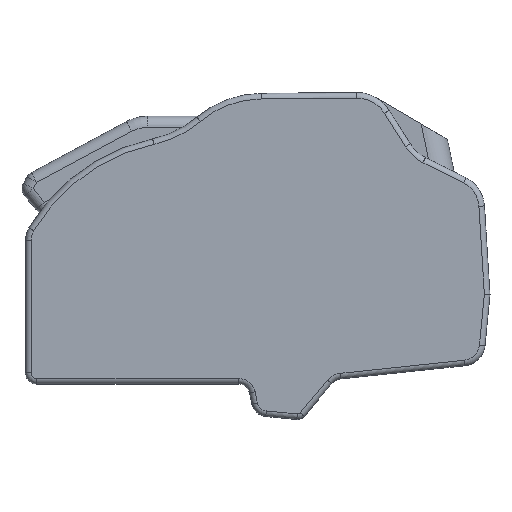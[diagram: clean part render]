
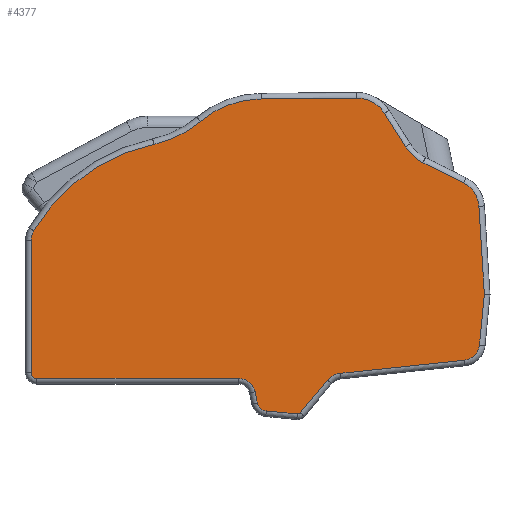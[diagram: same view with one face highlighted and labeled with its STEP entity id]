
A CAD part, front view. The second image highlights one B-rep face of the part: STEP entity #4377.
In plain terms, the highlighted planar face has unit normal (0, -1, 0).
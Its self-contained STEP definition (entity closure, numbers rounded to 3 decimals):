
#215=CIRCLE('',#4718,0.15);
#216=CIRCLE('',#4719,0.85);
#217=CIRCLE('',#4720,0.75);
#218=CIRCLE('',#4721,1.25);
#219=CIRCLE('',#4722,1.95);
#220=CIRCLE('',#4723,1.45);
#221=CIRCLE('',#4724,4.25);
#222=CIRCLE('',#4725,4.75);
#223=CIRCLE('',#4726,8.25);
#224=CIRCLE('',#4727,0.85);
#225=CIRCLE('',#4728,0.25);
#226=CIRCLE('',#4729,0.75);
#227=CIRCLE('',#4730,0.45);
#606=ORIENTED_EDGE('',*,*,#1935,.T.);
#607=ORIENTED_EDGE('',*,*,#1936,.T.);
#608=ORIENTED_EDGE('',*,*,#1937,.T.);
#609=ORIENTED_EDGE('',*,*,#1938,.T.);
#610=ORIENTED_EDGE('',*,*,#1939,.T.);
#611=ORIENTED_EDGE('',*,*,#1940,.T.);
#612=ORIENTED_EDGE('',*,*,#1941,.T.);
#613=ORIENTED_EDGE('',*,*,#1942,.T.);
#614=ORIENTED_EDGE('',*,*,#1943,.T.);
#615=ORIENTED_EDGE('',*,*,#1944,.T.);
#616=ORIENTED_EDGE('',*,*,#1945,.T.);
#617=ORIENTED_EDGE('',*,*,#1946,.T.);
#618=ORIENTED_EDGE('',*,*,#1947,.T.);
#619=ORIENTED_EDGE('',*,*,#1948,.T.);
#620=ORIENTED_EDGE('',*,*,#1949,.T.);
#621=ORIENTED_EDGE('',*,*,#1950,.T.);
#622=ORIENTED_EDGE('',*,*,#1951,.T.);
#623=ORIENTED_EDGE('',*,*,#1952,.T.);
#624=ORIENTED_EDGE('',*,*,#1953,.T.);
#625=ORIENTED_EDGE('',*,*,#1954,.T.);
#626=ORIENTED_EDGE('',*,*,#1955,.T.);
#627=ORIENTED_EDGE('',*,*,#1956,.T.);
#628=ORIENTED_EDGE('',*,*,#1957,.T.);
#629=ORIENTED_EDGE('',*,*,#1958,.T.);
#1935=EDGE_CURVE('',#2591,#2592,#2965,.T.);
#1936=EDGE_CURVE('',#2592,#2593,#215,.T.);
#1937=EDGE_CURVE('',#2593,#2594,#2966,.T.);
#1938=EDGE_CURVE('',#2594,#2595,#216,.F.);
#1939=EDGE_CURVE('',#2595,#2596,#2967,.T.);
#1940=EDGE_CURVE('',#2596,#2597,#217,.T.);
#1941=EDGE_CURVE('',#2597,#2598,#2968,.T.);
#1942=EDGE_CURVE('',#2598,#2599,#2969,.T.);
#1943=EDGE_CURVE('',#2599,#2600,#218,.T.);
#1944=EDGE_CURVE('',#2600,#2601,#2970,.T.);
#1945=EDGE_CURVE('',#2601,#2602,#219,.F.);
#1946=EDGE_CURVE('',#2602,#2603,#2971,.T.);
#1947=EDGE_CURVE('',#2603,#2604,#220,.T.);
#1948=EDGE_CURVE('',#2604,#2605,#2972,.T.);
#1949=EDGE_CURVE('',#2605,#2606,#221,.T.);
#1950=EDGE_CURVE('',#2606,#2607,#222,.F.);
#1951=EDGE_CURVE('',#2607,#2608,#223,.T.);
#1952=EDGE_CURVE('',#2608,#2609,#224,.T.);
#1953=EDGE_CURVE('',#2609,#2610,#2973,.T.);
#1954=EDGE_CURVE('',#2610,#2611,#225,.T.);
#1955=EDGE_CURVE('',#2611,#2612,#2974,.T.);
#1956=EDGE_CURVE('',#2612,#2613,#226,.F.);
#1957=EDGE_CURVE('',#2613,#2614,#2975,.T.);
#1958=EDGE_CURVE('',#2614,#2591,#227,.T.);
#2591=VERTEX_POINT('',#6862);
#2592=VERTEX_POINT('',#6863);
#2593=VERTEX_POINT('',#6865);
#2594=VERTEX_POINT('',#6867);
#2595=VERTEX_POINT('',#6869);
#2596=VERTEX_POINT('',#6871);
#2597=VERTEX_POINT('',#6873);
#2598=VERTEX_POINT('',#6875);
#2599=VERTEX_POINT('',#6877);
#2600=VERTEX_POINT('',#6879);
#2601=VERTEX_POINT('',#6881);
#2602=VERTEX_POINT('',#6883);
#2603=VERTEX_POINT('',#6885);
#2604=VERTEX_POINT('',#6887);
#2605=VERTEX_POINT('',#6889);
#2606=VERTEX_POINT('',#6891);
#2607=VERTEX_POINT('',#6893);
#2608=VERTEX_POINT('',#6895);
#2609=VERTEX_POINT('',#6897);
#2610=VERTEX_POINT('',#6899);
#2611=VERTEX_POINT('',#6901);
#2612=VERTEX_POINT('',#6903);
#2613=VERTEX_POINT('',#6905);
#2614=VERTEX_POINT('',#6907);
#2965=LINE('',#6861,#3376);
#2966=LINE('',#6866,#3377);
#2967=LINE('',#6870,#3378);
#2968=LINE('',#6874,#3379);
#2969=LINE('',#6876,#3380);
#2970=LINE('',#6880,#3381);
#2971=LINE('',#6884,#3382);
#2972=LINE('',#6888,#3383);
#2973=LINE('',#6898,#3384);
#2974=LINE('',#6902,#3385);
#2975=LINE('',#6906,#3386);
#3376=VECTOR('',#5401,1000.);
#3377=VECTOR('',#5404,1000.);
#3378=VECTOR('',#5407,1000.);
#3379=VECTOR('',#5410,1000.);
#3380=VECTOR('',#5411,1000.);
#3381=VECTOR('',#5414,1000.);
#3382=VECTOR('',#5417,1000.);
#3383=VECTOR('',#5420,1000.);
#3384=VECTOR('',#5429,1000.);
#3385=VECTOR('',#5432,1000.);
#3386=VECTOR('',#5435,1000.);
#3723=EDGE_LOOP('',(#606,#607,#608,#609,#610,#611,#612,#613,#614,#615,#616,
#617,#618,#619,#620,#621,#622,#623,#624,#625,#626,#627,#628,#629));
#3990=FACE_BOUND('',#3723,.T.);
#4246=PLANE('',#4717);
#4377=ADVANCED_FACE('',(#3990),#4246,.T.);
#4717=AXIS2_PLACEMENT_3D('',#6860,#5399,#5400);
#4718=AXIS2_PLACEMENT_3D('',#6864,#5402,#5403);
#4719=AXIS2_PLACEMENT_3D('',#6868,#5405,#5406);
#4720=AXIS2_PLACEMENT_3D('',#6872,#5408,#5409);
#4721=AXIS2_PLACEMENT_3D('',#6878,#5412,#5413);
#4722=AXIS2_PLACEMENT_3D('',#6882,#5415,#5416);
#4723=AXIS2_PLACEMENT_3D('',#6886,#5418,#5419);
#4724=AXIS2_PLACEMENT_3D('',#6890,#5421,#5422);
#4725=AXIS2_PLACEMENT_3D('',#6892,#5423,#5424);
#4726=AXIS2_PLACEMENT_3D('',#6894,#5425,#5426);
#4727=AXIS2_PLACEMENT_3D('',#6896,#5427,#5428);
#4728=AXIS2_PLACEMENT_3D('',#6900,#5430,#5431);
#4729=AXIS2_PLACEMENT_3D('',#6904,#5433,#5434);
#4730=AXIS2_PLACEMENT_3D('',#6908,#5436,#5437);
#5399=DIRECTION('',(0.,-1.,0.));
#5400=DIRECTION('',(0.,0.,-1.));
#5401=DIRECTION('',(0.995,0.,-0.095));
#5402=DIRECTION('',(0.,-1.,0.));
#5403=DIRECTION('',(0.,0.,-1.));
#5404=DIRECTION('',(0.64,0.,0.768));
#5405=DIRECTION('',(0.,-1.,0.));
#5406=DIRECTION('',(0.,0.,-1.));
#5407=DIRECTION('',(0.994,0.,0.105));
#5408=DIRECTION('',(0.,-1.,0.));
#5409=DIRECTION('',(0.,0.,-1.));
#5410=DIRECTION('',(0.096,0.,0.995));
#5411=DIRECTION('',(-0.062,0.,0.998));
#5412=DIRECTION('',(0.,-1.,0.));
#5413=DIRECTION('',(0.,0.,-1.));
#5414=DIRECTION('',(-0.894,0.,0.447));
#5415=DIRECTION('',(0.,-1.,0.));
#5416=DIRECTION('',(0.,0.,-1.));
#5417=DIRECTION('',(-0.533,0.,0.846));
#5418=DIRECTION('',(0.,-1.,0.));
#5419=DIRECTION('',(0.,0.,-1.));
#5420=DIRECTION('',(-1.,0.,-0.009));
#5421=DIRECTION('',(0.,-1.,0.));
#5422=DIRECTION('',(0.,0.,-1.));
#5423=DIRECTION('',(0.,-1.,0.));
#5424=DIRECTION('',(0.,0.,-1.));
#5425=DIRECTION('',(0.,-1.,0.));
#5426=DIRECTION('',(0.,0.,-1.));
#5427=DIRECTION('',(0.,-1.,0.));
#5428=DIRECTION('',(0.,0.,-1.));
#5429=DIRECTION('',(0.,0.,-1.));
#5430=DIRECTION('',(0.,-1.,0.));
#5431=DIRECTION('',(0.,0.,-1.));
#5432=DIRECTION('',(1.,0.,0.));
#5433=DIRECTION('',(0.,-1.,0.));
#5434=DIRECTION('',(0.,0.,-1.));
#5435=DIRECTION('',(0.21,0.,-0.978));
#5436=DIRECTION('',(0.,-1.,0.));
#5437=DIRECTION('',(0.,0.,-1.));
#6860=CARTESIAN_POINT('',(-3.697,-8.25,6.395));
#6861=CARTESIAN_POINT('',(7.317,-8.25,-1.331));
#6862=CARTESIAN_POINT('',(5.937,-8.25,-1.2));
#6863=CARTESIAN_POINT('',(7.317,-8.25,-1.331));
#6864=CARTESIAN_POINT('',(7.331,-8.25,-1.182));
#6865=CARTESIAN_POINT('',(7.446,-8.25,-1.278));
#6866=CARTESIAN_POINT('',(8.655,-8.25,0.173));
#6867=CARTESIAN_POINT('',(8.655,-8.25,0.173));
#6868=CARTESIAN_POINT('',(9.308,-8.25,-0.371));
#6869=CARTESIAN_POINT('',(9.219,-8.25,0.474));
#6870=CARTESIAN_POINT('',(14.765,-8.25,1.063));
#6871=CARTESIAN_POINT('',(14.765,-8.25,1.063));
#6872=CARTESIAN_POINT('',(14.686,-8.25,1.808));
#6873=CARTESIAN_POINT('',(15.433,-8.25,1.736));
#6874=CARTESIAN_POINT('',(15.654,-8.25,4.024));
#6875=CARTESIAN_POINT('',(15.652,-8.25,4.004));
#6876=CARTESIAN_POINT('',(15.407,-8.25,7.923));
#6877=CARTESIAN_POINT('',(15.407,-8.25,7.923));
#6878=CARTESIAN_POINT('',(14.16,-8.25,7.845));
#6879=CARTESIAN_POINT('',(14.719,-8.25,8.963));
#6880=CARTESIAN_POINT('',(12.916,-8.25,9.864));
#6881=CARTESIAN_POINT('',(12.916,-8.25,9.864));
#6882=CARTESIAN_POINT('',(13.788,-8.25,11.608));
#6883=CARTESIAN_POINT('',(12.138,-8.25,10.569));
#6884=CARTESIAN_POINT('',(11.197,-8.25,12.064));
#6885=CARTESIAN_POINT('',(11.197,-8.25,12.064));
#6886=CARTESIAN_POINT('',(9.97,-8.25,11.292));
#6887=CARTESIAN_POINT('',(9.957,-8.25,12.741));
#6888=CARTESIAN_POINT('',(5.705,-8.25,12.703));
#6889=CARTESIAN_POINT('',(5.705,-8.25,12.703));
#6890=CARTESIAN_POINT('',(5.743,-8.25,8.454));
#6891=CARTESIAN_POINT('',(2.997,-8.25,11.697));
#6892=CARTESIAN_POINT('',(-0.073,-8.25,15.322));
#6893=CARTESIAN_POINT('',(0.927,-8.25,10.678));
#6894=CARTESIAN_POINT('',(2.663,-8.25,2.613));
#6895=CARTESIAN_POINT('',(-4.428,-8.25,6.829));
#6896=CARTESIAN_POINT('',(-3.697,-8.25,6.395));
#6897=CARTESIAN_POINT('',(-4.547,-8.25,6.395));
#6898=CARTESIAN_POINT('',(-4.547,-8.25,0.5));
#6899=CARTESIAN_POINT('',(-4.547,-8.25,0.5));
#6900=CARTESIAN_POINT('',(-4.297,-8.25,0.5));
#6901=CARTESIAN_POINT('',(-4.297,-8.25,0.25));
#6902=CARTESIAN_POINT('',(4.699,-8.25,0.25));
#6903=CARTESIAN_POINT('',(4.699,-8.25,0.25));
#6904=CARTESIAN_POINT('',(4.699,-8.25,-0.5));
#6905=CARTESIAN_POINT('',(5.432,-8.25,-0.343));
#6906=CARTESIAN_POINT('',(5.54,-8.25,-0.846));
#6907=CARTESIAN_POINT('',(5.54,-8.25,-0.846));
#6908=CARTESIAN_POINT('',(5.98,-8.25,-0.752));
